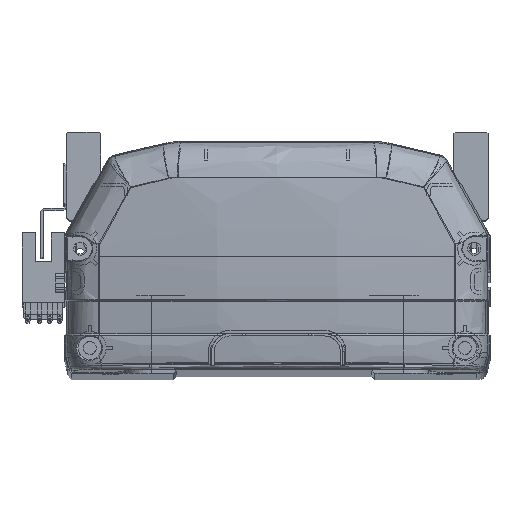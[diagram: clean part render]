
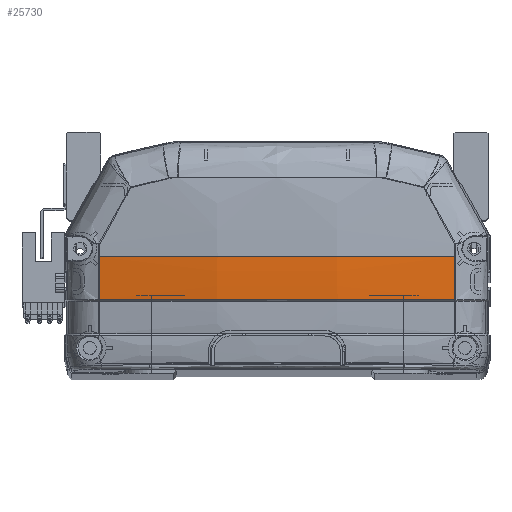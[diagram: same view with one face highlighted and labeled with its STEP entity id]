
A CAD part, top view. The second image highlights one B-rep face of the part: STEP entity #25730.
In plain terms, the highlighted free-form (B-spline) face has degree [3, 3] with [4, 4] control points.
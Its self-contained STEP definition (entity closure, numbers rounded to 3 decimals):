
#311 = CARTESIAN_POINT ( 'NONE',  ( 38.071, 22.225, -7.566 ) ) ;
#994 = ORIENTED_EDGE ( 'NONE', *, *, #2294, .F. ) ;
#2294 = EDGE_CURVE ( 'NONE', #36511, #30945, #10858, .T. ) ;
#2566 = CARTESIAN_POINT ( 'NONE',  ( 19.295, 31.274, -11.535 ) ) ;
#3082 = ORIENTED_EDGE ( 'NONE', *, *, #19379, .F. ) ;
#3383 = CARTESIAN_POINT ( 'NONE',  ( 4.761, 22.225, -9.537 ) ) ;
#5836 = CARTESIAN_POINT ( 'NONE',  ( -56.647, 31.405, -5.158 ) ) ;
#6120 = CARTESIAN_POINT ( 'NONE',  ( -19.295, 21.828, -11.186 ) ) ;
#6432 = CARTESIAN_POINT ( 'NONE',  ( 57.335, 36., -5.042 ) ) ;
#6587 = CARTESIAN_POINT ( 'NONE',  ( 19.295, 36., -11.535 ) ) ;
#6605 = CARTESIAN_POINT ( 'NONE',  ( 56.661, 22.225, -4.818 ) ) ;
#6963 = DIRECTION ( 'NONE',  ( -1., 0., 0. ) ) ;
#7460 = DIRECTION ( 'NONE',  ( 0., 0., -1. ) ) ;
#9221 = ORIENTED_EDGE ( 'NONE', *, *, #41925, .T. ) ;
#9986 = CARTESIAN_POINT ( 'NONE',  ( -57.335, 26.762, -4.928 ) ) ;
#10858 = CIRCLE ( 'NONE', #26372, 6395.966 ) ;
#10985 = B_SPLINE_CURVE_WITH_KNOTS ( 'NONE', 3,
 ( #6605, #18337, #311, #26061, #15105, #43932, #14454, #3383, #43548, #14938, #44091, #14778, #32821 ),
 .UNSPECIFIED., .F., .F.,
 ( 4, 2, 2, 1, 2, 2, 4 ),
 ( 0., 0.25, 0.375, 0.438, 0.469, 0.5, 1. ),
 .UNSPECIFIED. ) ;
#12207 = CARTESIAN_POINT ( 'NONE',  ( 56.661, 22.225, -4.818 ) ) ;
#12605 = EDGE_CURVE ( 'NONE', #21462, #36511, #15580, .T. ) ;
#14454 = CARTESIAN_POINT ( 'NONE',  ( 8.363, 22.225, -9.48 ) ) ;
#14778 = CARTESIAN_POINT ( 'NONE',  ( -38.235, 22.225, -7.93 ) ) ;
#14938 = CARTESIAN_POINT ( 'NONE',  ( 1.152, 22.225, -9.568 ) ) ;
#15105 = CARTESIAN_POINT ( 'NONE',  ( 19.121, 22.225, -9.064 ) ) ;
#15434 = CARTESIAN_POINT ( 'NONE',  ( 56.647, 35.969, -5.158 ) ) ;
#15580 = B_SPLINE_CURVE_WITH_KNOTS ( 'NONE', 3,
 ( #12207, #23134, #45020, #15434 ),
 .UNSPECIFIED., .F., .F.,
 ( 4, 4 ),
 ( 0., 1. ),
 .UNSPECIFIED. ) ;
#16945 = CARTESIAN_POINT ( 'NONE',  ( -56.661, 22.225, -4.818 ) ) ;
#17235 = CARTESIAN_POINT ( 'NONE',  ( -56.647, 36., -5.158 ) ) ;
#18337 = CARTESIAN_POINT ( 'NONE',  ( 47.432, 22.225, -6.377 ) ) ;
#19379 = EDGE_CURVE ( 'NONE', #30945, #19605, #37487, .T. ) ;
#19605 = VERTEX_POINT ( 'NONE', #34328 ) ;
#20891 = CARTESIAN_POINT ( 'NONE',  ( 57.335, 31.38, -5.042 ) ) ;
#21048 = CARTESIAN_POINT ( 'NONE',  ( -57.335, 22.148, -4.7 ) ) ;
#21462 = VERTEX_POINT ( 'NONE', #23524 ) ;
#21506 = EDGE_CURVE ( 'NONE', #19605, #25426, #44975, .T. ) ;
#21512 = CARTESIAN_POINT ( 'NONE',  ( 56.647, 36., -5.158 ) ) ;
#21597 = DIRECTION ( 'NONE',  ( 0., 1., 0. ) ) ;
#22834 =( BOUNDED_SURFACE ( )  B_SPLINE_SURFACE ( 3, 3, ( 
 ( #24785, #31883, #20891, #6432 ),
 ( #43110, #32028, #2566, #6587 ),
 ( #6120, #28795, #43269, #39112 ),
 ( #21048, #9986, #46969, #35550 ) ),
 .UNSPECIFIED., .F., .F., .F. ) 
 B_SPLINE_SURFACE_WITH_KNOTS ( ( 4, 4 ),
 ( 4, 4 ),
 ( 0., 1. ),
 ( 0., 1. ),
 .UNSPECIFIED. ) 
 GEOMETRIC_REPRESENTATION_ITEM ( )  RATIONAL_B_SPLINE_SURFACE ( (
 ( 1., 1., 1., 1.),
 ( 0.99, 0.99, 0.99, 0.99),
 ( 0.99, 0.99, 0.99, 0.99),
 ( 1., 1., 1., 1.) ) ) 
 REPRESENTATION_ITEM ( '' )  SURFACE ( )  );
#23134 = CARTESIAN_POINT ( 'NONE',  ( 56.652, 26.806, -5.044 ) ) ;
#23524 = CARTESIAN_POINT ( 'NONE',  ( 56.661, 22.225, -4.818 ) ) ;
#24785 = CARTESIAN_POINT ( 'NONE',  ( 57.335, 22.148, -4.7 ) ) ;
#25426 = VERTEX_POINT ( 'NONE', #16945 ) ;
#25730 = ADVANCED_FACE ( 'NONE', ( #32412 ), #22834, .T. ) ;
#26061 = CARTESIAN_POINT ( 'NONE',  ( 23.877, 22.225, -8.763 ) ) ;
#26372 = AXIS2_PLACEMENT_3D ( 'NONE', #29167, #39628, #6963 ) ;
#28185 = CARTESIAN_POINT ( 'NONE',  ( -56.661, 22.225, -4.818 ) ) ;
#28709 = ORIENTED_EDGE ( 'NONE', *, *, #21506, .F. ) ;
#28795 = CARTESIAN_POINT ( 'NONE',  ( -19.295, 26.549, -11.419 ) ) ;
#29167 = CARTESIAN_POINT ( 'NONE',  ( 6452.613, 35.969, -5.158 ) ) ;
#30945 = VERTEX_POINT ( 'NONE', #21512 ) ;
#31883 = CARTESIAN_POINT ( 'NONE',  ( 57.335, 26.762, -4.928 ) ) ;
#32028 = CARTESIAN_POINT ( 'NONE',  ( 19.295, 26.549, -11.419 ) ) ;
#32412 = FACE_OUTER_BOUND ( 'NONE', #41315, .T. ) ;
#32821 = CARTESIAN_POINT ( 'NONE',  ( -56.661, 22.225, -4.818 ) ) ;
#32881 = CARTESIAN_POINT ( 'NONE',  ( 0., 36., 330.833 ) ) ;
#34328 = CARTESIAN_POINT ( 'NONE',  ( -56.647, 36., -5.158 ) ) ;
#35550 = CARTESIAN_POINT ( 'NONE',  ( -57.335, 36., -5.042 ) ) ;
#36511 = VERTEX_POINT ( 'NONE', #37741 ) ;
#37487 = CIRCLE ( 'NONE', #44810, 340.733 ) ;
#37741 = CARTESIAN_POINT ( 'NONE',  ( 56.647, 35.969, -5.158 ) ) ;
#39112 = CARTESIAN_POINT ( 'NONE',  ( -19.295, 36., -11.535 ) ) ;
#39628 = DIRECTION ( 'NONE',  ( 0., 0., -1. ) ) ;
#41315 = EDGE_LOOP ( 'NONE', ( #3082, #994, #44784, #9221, #28709 ) ) ;
#41925 = EDGE_CURVE ( 'NONE', #21462, #25426, #10985, .T. ) ;
#43110 = CARTESIAN_POINT ( 'NONE',  ( 19.295, 21.828, -11.186 ) ) ;
#43269 = CARTESIAN_POINT ( 'NONE',  ( -19.295, 31.274, -11.535 ) ) ;
#43548 = CARTESIAN_POINT ( 'NONE',  ( 2.357, 22.225, -9.562 ) ) ;
#43932 = CARTESIAN_POINT ( 'NONE',  ( 11.954, 22.225, -9.367 ) ) ;
#44091 = CARTESIAN_POINT ( 'NONE',  ( -19.28, 22.225, -9.565 ) ) ;
#44784 = ORIENTED_EDGE ( 'NONE', *, *, #12605, .F. ) ;
#44810 = AXIS2_PLACEMENT_3D ( 'NONE', #32881, #21597, #7460 ) ;
#44975 = B_SPLINE_CURVE_WITH_KNOTS ( 'NONE', 3,
 ( #17235, #5836, #46670, #28185 ),
 .UNSPECIFIED., .F., .F.,
 ( 4, 4 ),
 ( 0., 1. ),
 .UNSPECIFIED. ) ;
#45020 = CARTESIAN_POINT ( 'NONE',  ( 56.647, 31.387, -5.158 ) ) ;
#46670 = CARTESIAN_POINT ( 'NONE',  ( -56.652, 26.814, -5.045 ) ) ;
#46969 = CARTESIAN_POINT ( 'NONE',  ( -57.335, 31.38, -5.042 ) ) ;
